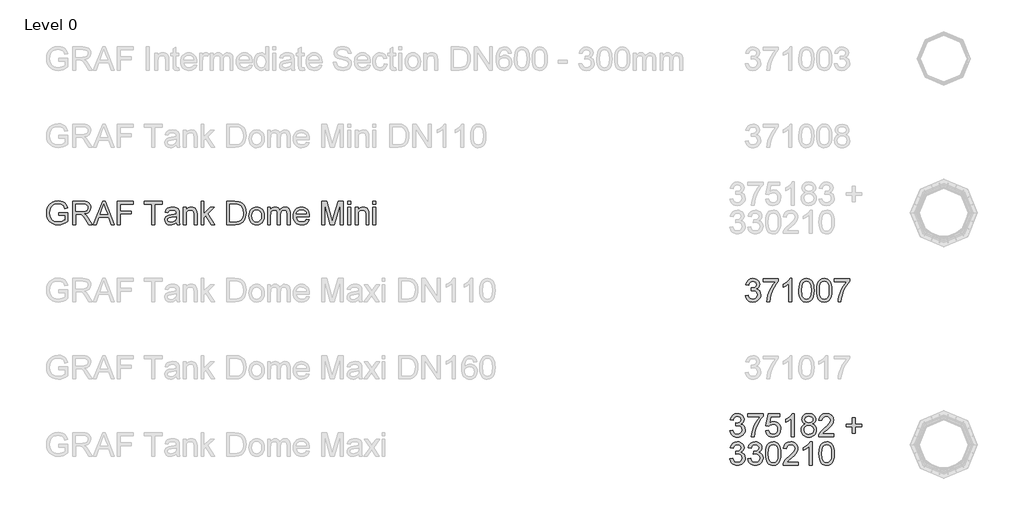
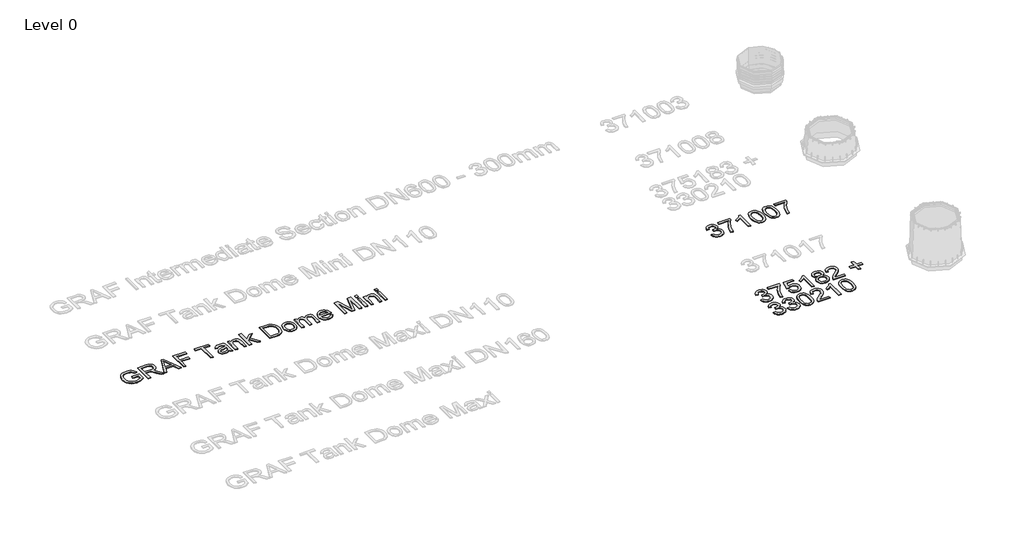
# One storey, part 4 of 19: 3 proxies.
"""IFC4 building model written with IfcOpenShell, lengths in millimetres."""

import ifcopenshell
import ifcopenshell.guid

model = None  # the IFC model being written
_history = None  # IfcOwnerHistory: only IFC2X3 demands one
_inside = {}  # id of a spatial element -> (the spatial element, [elements in it])
_under = {}  # id of a project, library or spatial element -> (it, [spatial elements below it])
_declared = {}  # id of a project -> (the project, [libraries it declares])
_typed = {}  # id of a type object -> (the type object, [elements of that type])
_made_of = {}  # id of a material, layer set ... -> (it, [elements and type objects made of it])


def new_model(schema):
    """Start an empty IFC model of exactly this schema.

    Asked for "IFC4X3", IfcOpenShell would pick the latest addendum, in which some entities
    have other attributes; the version numbers below select the first issue.
    IFC2X3 requires an IfcOwnerHistory on every rooted entity: one is made here for all.
    """
    global model, _history
    if schema == "IFC4X3":
        model = ifcopenshell.file(schema_version=(4, 3, 0, 0))
    else:
        model = ifcopenshell.file(schema=schema)
    _inside.clear()
    _under.clear()
    _declared.clear()
    _typed.clear()
    _made_of.clear()
    _history = None
    if model.schema == "IFC2X3":
        org = make("IfcOrganization", Name="unknown")
        user = make(
            "IfcPersonAndOrganization",
            ThePerson=make("IfcPerson", FamilyName="unknown"),
            TheOrganization=org,
        )
        app = make(
            "IfcApplication",
            ApplicationDeveloper=org,
            Version="unknown",
            ApplicationFullName="unknown",
            ApplicationIdentifier="unknown",
        )
        _history = make(
            "IfcOwnerHistory",
            OwningUser=user,
            OwningApplication=app,
            ChangeAction="ADDED",
            CreationDate=0,
        )
    return model


def make(cls, **values):
    """One entity of the class cls with the attributes given. An attribute that is None is left unset."""
    return model.create_entity(
        cls, **{name: value for name, value in values.items() if value is not None}
    )


def rooted(cls, **values):
    """An entity with a GlobalId (a new one), such as an element, a storey or a relation."""
    return make(cls, GlobalId=ifcopenshell.guid.new(), OwnerHistory=_history, **values)


def si_unit(unit_type, name, prefix=None):
    """IfcSIUnit, for example si_unit("LENGTHUNIT", "METRE", prefix="MILLI")."""
    return make("IfcSIUnit", UnitType=unit_type, Prefix=prefix, Name=name)


def assignment(units):
    """IfcUnitAssignment: the units of a project."""
    return None if units is None else make("IfcUnitAssignment", Units=units)


def point(xyz):
    """IfcCartesianPoint."""
    return None if xyz is None else make("IfcCartesianPoint", Coordinates=xyz)


def direction(xyz):
    """IfcDirection."""
    return None if xyz is None else make("IfcDirection", DirectionRatios=xyz)


def frame(location, z_axis=None, x_axis=None):
    """IfcAxis2Placement3D, a coordinate frame: its origin and axes. An axis left out is left unset."""
    return make(
        "IfcAxis2Placement3D",
        Location=point(location),
        Axis=direction(z_axis),
        RefDirection=direction(x_axis),
    )


def origin():
    """The frame at (0, 0, 0) with its axes left unset."""
    return frame((0.0, 0.0, 0.0))


def origin_with_axes():
    """The frame at (0, 0, 0) with the z axis (0, 0, 1) and the x axis (1, 0, 0) written out."""
    return frame((0.0, 0.0, 0.0), z_axis=(0.0, 0.0, 1.0), x_axis=(1.0, 0.0, 0.0))


def place(relative_to, where):
    """IfcLocalPlacement: puts the frame where relative to a parent placement (None: the world)."""
    return make(
        "IfcLocalPlacement", PlacementRelTo=relative_to, RelativePlacement=where
    )


def context(
    kind, dimensions, precision=None, world=None, true_north=None, identifier=None
):
    """IfcGeometricRepresentationContext, for example the 3D "Model" context."""
    return make(
        "IfcGeometricRepresentationContext",
        ContextIdentifier=identifier,
        ContextType=kind,
        CoordinateSpaceDimension=dimensions,
        Precision=precision,
        WorldCoordinateSystem=world,
        TrueNorth=true_north,
    )


def project(units=None, contexts=None):
    """IfcProject with its units and contexts."""
    return rooted(
        "IfcProject",
        Name="project",
        RepresentationContexts=contexts,
        UnitsInContext=assignment(units),
    )


def spatial(cls, under=None, at=None, **own):
    """A site, building, storey or space (cls), placed at a placement, below another one or the project."""
    s = rooted(cls, ObjectPlacement=at, **own)
    if under is not None:
        _under.setdefault(under.id(), (under, []))[1].append(s)
    return s


def polyline(points):
    """IfcPolyline through the points."""
    return make("IfcPolyline", Points=[point(p) for p in points])


def outline(outer, holes=None, kind="AREA"):
    """IfcArbitraryClosedProfileDef: a profile drawn as a closed curve; with holes, ...WithVoids."""
    if holes is None:
        return make("IfcArbitraryClosedProfileDef", ProfileType=kind, OuterCurve=outer)
    return make(
        "IfcArbitraryProfileDefWithVoids",
        ProfileType=kind,
        OuterCurve=outer,
        InnerCurves=holes,
    )


def extrude(swept, where, along, depth):
    """IfcExtrudedAreaSolid: the profile swept, set in the frame where, extruded along a direction by depth."""
    return make(
        "IfcExtrudedAreaSolid",
        SweptArea=swept,
        Position=where,
        ExtrudedDirection=direction(along),
        Depth=depth,
    )


def shape(context_of_items, identifier, shape_type, items):
    """IfcShapeRepresentation: the items that make up one representation, for example the "Body"."""
    return make(
        "IfcShapeRepresentation",
        ContextOfItems=context_of_items,
        RepresentationIdentifier=identifier,
        RepresentationType=shape_type,
        Items=items,
    )


def made_of(thing, what):
    """Note that an element or type object is made of a material, layer set ...; save() writes the relation."""
    if what is not None:
        _made_of.setdefault(what.id(), (what, []))[1].append(thing)
    return thing


def element(
    cls,
    number,
    at=None,
    inside=None,
    cuts=None,
    type_object=None,
    material=None,
    context=None,
    identifier="Body",
    shape_type=None,
    held_by="IfcProductDefinitionShape",
    body=None,
    shapes=None,
    **own,
):
    """One element of the class cls, such as IfcWall. Its Tag is "e" and its number.

    at: its placement. inside: the storey or other place that contains it. cuts: it is an
    opening in that element (IfcRelVoidsElement). A single representation is given by context,
    identifier, shape_type and body (its items); several are given by shapes. held_by: the class
    of the entity that holds the representations. save() writes the other relations.
    """
    e = rooted(cls, Tag="e%d" % number, ObjectPlacement=at, **own)
    if body is not None:
        shapes = [shape(context, identifier, shape_type, body)]
    if shapes is not None:
        e.Representation = make(held_by, Representations=shapes)
    if inside is not None:
        _inside.setdefault(inside.id(), (inside, []))[1].append(e)
    if cuts is not None:
        rooted(
            "IfcRelVoidsElement", RelatingBuildingElement=cuts, RelatedOpeningElement=e
        )
    if type_object is not None:
        _typed.setdefault(type_object.id(), (type_object, []))[1].append(e)
    return made_of(e, material)


def aggregate(whole, parts):
    """IfcRelAggregates: a whole, such as a stair, and the parts it consists of."""
    return rooted("IfcRelAggregates", RelatingObject=whole, RelatedObjects=parts)


def save(model, path):
    """Write the relations noted so far, then the file.

    IfcRelAggregates (storeys below a building ...), IfcRelContainedInSpatialStructure (elements
    in a storey), IfcRelDefinesByType, IfcRelAssociatesMaterial and IfcRelDeclares: one each for
    every whole, place, type object, material and project.
    """
    for whole, parts in _under.values():
        aggregate(whole, parts)
    for where, things in _inside.values():
        rooted(
            "IfcRelContainedInSpatialStructure",
            RelatedElements=things,
            RelatingStructure=where,
        )
    for kind, things in _typed.values():
        rooted("IfcRelDefinesByType", RelatedObjects=things, RelatingType=kind)
    for what, things in _made_of.values():
        rooted("IfcRelAssociatesMaterial", RelatedObjects=things, RelatingMaterial=what)
    for by, libraries in _declared.values():
        rooted("IfcRelDeclares", RelatingContext=by, RelatedDefinitions=libraries)
    model.write(path)


model = new_model("IFC4")

# Units and contexts
model_context = context("Model", 3, world=origin())
ifc_project = project(units=[si_unit("LENGTHUNIT", "METRE", prefix="MILLI")], contexts=[model_context])

# Site, building, storey
site = spatial("IfcSite", under=ifc_project)
building = spatial("IfcBuilding", under=site)
storey = spatial("IfcBuildingStorey", under=building, Name="Level 0", Elevation=0.0)

# Proxies
placement = place(None, origin())
element("IfcBuildingElementProxy", 1, Name="300mm Arial", ObjectType="300mm Arial", at=placement, inside=storey, context=model_context, shape_type="SweptSolid", body=[
    extrude(outline(polyline([(-15240.9940387, -15082.9794047), (-15240.9940387, -15045.3082884), (-15118.5629107, -15045.3082884), (-15118.5629107, -15157.9537553), (-15148.3153671, -15178.6471176), (-15179.0059225, -15193.4911561), (-15210.5610007, -15202.4306885), (-15242.9070251, -15205.4105327), (-15285.1674693, -15200.674052), (-15323.3628175, -15186.46461), (-15355.0926395, -15163.2788472), (-15377.9565055, -15131.6134045), (-15391.7796715, -15093.6295885), (-15396.3873935, -15051.4887059), (-15391.7980656, -15009.0443207), (-15378.0300819, -14969.5613856), (-15355.6536596, -14936.442809), (-15325.2390156, -14913.0914993), (-15288.1932987, -14899.2407422), (-15245.9236575, -14894.6238232), (-15214.8928112, -14897.3001647), (-15186.9889618, -14905.3291892), (-15163.4904994, -14918.1314827), (-15145.6758138, -14935.1276309), (-15132.4964413, -14957.1361712), (-15122.9039183, -14984.9756412), (-15157.6319786, -14994.7613023), (-15165.3850917, -14974.9048716), (-15174.8120678, -14959.9228773), (-15187.2832674, -14948.6289001), (-15204.169051, -14939.8365204), (-15224.3013932, -14934.1803347), (-15246.5122687, -14932.2949395), (-15272.5123287, -14934.3274875), (-15294.7415982, -14940.4251316), (-15313.1173039, -14949.8245166), (-15327.5566722, -14961.7622873), (-15346.9440533, -14990.7881767), (-15355.7732212, -15019.225455), (-15358.7162772, -15049.9436015), (-15355.175413, -15085.9684459), (-15344.5528204, -15115.6105377), (-15327.1703961, -15138.6583447), (-15303.3500369, -15154.9003348), (-15275.4737787, -15164.529646), (-15245.9236575, -15167.7394164), (-15219.831627, -15165.3205923), (-15194.3833899, -15158.0641199), (-15172.2828791, -15148.0669267), (-15156.234027, -15137.42594), (-15156.234027, -15082.9794047), (-15240.9940387, -15082.9794047)])), origin_with_axes(), (0.0, 0.0, 1.0), 10.0),
    extrude(outline(polyline([(-15057.3473467, -15200.7016432), (-15057.3473467, -14899.3327127), (-14927.4850024, -14899.3327127), (-14892.5821982, -14901.3652607), (-14867.1891434, -14907.4629048), (-14848.6294968, -14918.7200939), (-14834.2269167, -14936.2312768), (-14824.9838815, -14957.9455116), (-14821.9028698, -14981.811856), (-14827.0072325, -15011.4999331), (-14842.3203206, -15036.1112385), (-14853.9200997, -15046.1406214), (-14868.3019865, -15054.1558504), (-14905.4120827, -15064.1438466), (-14884.0013506, -15080.257078), (-14853.467145, -15119.0318402), (-14803.2144645, -15200.7016432), (-14846.9924219, -15200.7016432), (-14886.2086426, -15138.2352804), (-14914.5355562, -15096.8853441), (-14934.4379722, -15077.3508102), (-14952.3538253, -15070.1771113), (-14974.2060158, -15068.8527361), (-15019.6762304, -15068.8527361), (-15019.6762304, -15200.7016432), (-15057.3473467, -15200.7016432)]), holes=[polyline([(-15019.6762304, -15031.1816198), (-14935.3576771, -15031.1816198), (-14911.1418448, -15029.8480476), (-14892.3522719, -15025.8473309), (-14878.2072092, -15018.9127553), (-14867.9249074, -15008.7776063), (-14861.6617165, -14996.5179388), (-14859.5739861, -14983.2098076), (-14863.5563087, -14964.834102), (-14875.5032765, -14950.0268517), (-14896.058683, -14940.2595847), (-14925.8663217, -14937.003829), (-15019.6762304, -14937.003829), (-15019.6762304, -15031.1816198)])]), origin_with_axes(), (0.0, 0.0, 1.0), 10.0),
    extrude(outline(polyline([(-14791.0743586, -15200.7016432), (-14670.7769462, -14899.3327127), (-14638.6976362, -14899.3327127), (-14518.4002238, -15200.7016432), (-14558.2050557, -15200.7016432), (-14592.7123868, -15106.5238524), (-14716.835772, -15106.5238524), (-14751.2695268, -15200.7016432), (-14791.0743586, -15200.7016432)]), holes=[polyline([(-14703.003409, -15068.8527361), (-14606.4711735, -15068.8527361), (-14633.6208647, -14994.7613023), (-14654.7372912, -14937.003829), (-14673.499273, -14988.2865792), (-14703.003409, -15068.8527361)])]), origin_with_axes(), (0.0, 0.0, 1.0), 10.0),
    extrude(outline(polyline([(-14478.1539335, -15200.7016432), (-14478.1539335, -14899.3327127), (-14275.6716834, -14899.3327127), (-14275.6716834, -14937.003829), (-14440.4828172, -14937.003829), (-14440.4828172, -15026.4727303), (-14299.2161311, -15026.4727303), (-14299.2161311, -15064.1438466), (-14440.4828172, -15064.1438466), (-14440.4828172, -15200.7016432), (-14478.1539335, -15200.7016432)])), origin_with_axes(), (0.0, 0.0, 1.0), 10.0),
    extrude(outline(polyline([(-14030.8094274, -15200.7016432), (-14030.8094274, -14937.003829), (-14129.6961077, -14937.003829), (-14129.6961077, -14899.3327127), (-13894.2516308, -14899.3327127), (-13894.2516308, -14937.003829), (-13993.1383111, -14937.003829), (-13993.1383111, -15200.7016432), (-14030.8094274, -15200.7016432)])), origin_with_axes(), (0.0, 0.0, 1.0), 10.0),
    extrude(outline(polyline([(-13715.3138283, -15172.4483059), (-13733.312455, -15187.8809556), (-13751.8445105, -15197.9793164), (-13771.3330592, -15203.5527286), (-13792.2011653, -15205.4105327), (-13823.6826671, -15200.9407665), (-13846.905218, -15187.5314677), (-13861.2250247, -15167.1691993), (-13865.9982936, -15141.8405239), (-13864.1956718, -15126.2239332), (-13858.7878065, -15112.0420823), (-13850.4460822, -15099.9019765), (-13839.8418837, -15090.410621), (-13813.4647447, -15078.049786), (-13780.8703999, -15072.3844033), (-13742.353155, -15066.4247149), (-13715.5345575, -15059.434957), (-13715.3138283, -15051.0472475), (-13717.9073964, -15034.2350404), (-13725.6881006, -15023.2353687), (-13743.088919, -15015.0683884), (-13767.3323425, -15012.3460616), (-13789.7731442, -15014.1578805), (-13805.4449172, -15019.5933369), (-13816.1318891, -15029.6457125), (-13823.6182877, -15045.3082884), (-13861.289404, -15040.5993989), (-13854.7503016, -15019.9980071), (-13844.9922316, -15003.8111994), (-13831.1046863, -14991.4319702), (-13812.1771577, -14982.2533144), (-13789.0281831, -14976.5695376), (-13762.4763001, -14974.6749453), (-13737.009669, -14976.3488084), (-13716.8221445, -14981.3703976), (-13701.601027, -14988.9211756), (-13691.0336167, -14998.1826048), (-13684.0254646, -15009.6329319), (-13679.482122, -15023.7504035), (-13677.642712, -15056.7126303), (-13677.642712, -15103.5807964), (-13675.7297257, -15169.0270034), (-13668.224933, -15200.7016432), (-13705.8960493, -15200.7016432), (-13715.3138283, -15172.4483059)]), holes=[polyline([(-13715.3138283, -15097.1060733), (-13776.0879339, -15108.657568), (-13808.4983377, -15114.7644091), (-13823.1768293, -15124.697223), (-13828.3271773, -15139.1917736), (-13825.522077, -15150.3937803), (-13817.1067764, -15159.5724361), (-13803.2652163, -15165.6976713), (-13784.1813378, -15167.7394164), (-13763.9478281, -15165.4861392), (-13746.0687631, -15158.7263075), (-13731.5742125, -15148.7659025), (-13721.4942459, -15136.9109052), (-13717.0244796, -15124.697223), (-13715.5345575, -15107.7746512), (-13715.3138283, -15097.1060733)])]), origin_with_axes(), (0.0, 0.0, 1.0), 10.0),
    extrude(outline(polyline([(-13625.8449271, -15200.7016432), (-13625.8449271, -14979.3838349), (-13588.1738108, -14979.3838349), (-13588.1738108, -15010.2859225), (-13575.0864088, -14994.70612), (-13559.3686506, -14983.5776896), (-13541.0205361, -14976.9006314), (-13520.0420653, -14974.6749453), (-13501.4732216, -14976.4683701), (-13484.4678764, -14981.8486442), (-13470.2860255, -14990.1443832), (-13460.1876647, -15000.6842024), (-13448.8936874, -15028.3857166), (-13446.9071247, -15064.8060342), (-13446.9071247, -15200.7016432), (-13484.578241, -15200.7016432), (-13484.578241, -15069.8828057), (-13488.9192485, -15036.5526969), (-13494.9249221, -15026.6290801), (-13504.2599277, -15018.9311494), (-13516.2252896, -15013.9923336), (-13530.122032, -15012.3460616), (-13552.1857546, -15016.0432757), (-13570.9937216, -15027.1349178), (-13578.5100106, -15036.1894135), (-13583.8787885, -15048.5640441), (-13588.1738108, -15083.2737103), (-13588.1738108, -15200.7016432), (-13625.8449271, -15200.7016432)])), origin_with_axes(), (0.0, 0.0, 1.0), 10.0),
    extrude(outline(polyline([(-13395.1093397, -15200.7016432), (-13395.1093397, -14899.3327127), (-13357.4382234, -14899.3327127), (-13357.4382234, -15061.274367), (-13272.9725173, -14979.3838349), (-13220.8804268, -14979.3838349), (-13306.3762025, -15062.3044366), (-13216.1715373, -15200.7016432), (-13260.1702239, -15200.7016432), (-13333.3787409, -15088.4976346), (-13357.4382234, -15111.8213531), (-13357.4382234, -15200.7016432), (-13395.1093397, -15200.7016432)])), origin_with_axes(), (0.0, 0.0, 1.0), 10.0),
    extrude(outline(polyline([(-13060.7781825, -15200.7016432), (-13060.7781825, -14899.3327127), (-12956.8147307, -14899.3327127), (-12903.030383, -14903.6737203), (-12879.0076887, -14912.0430357), (-12858.7373908, -14925.2316052), (-12837.8968757, -14948.1874417), (-12823.0528372, -14976.7350845), (-12814.1684871, -15010.3227107), (-12811.207037, -15048.3984972), (-12813.2119939, -15080.7445216), (-12819.2268645, -15109.209391), (-12828.3871262, -15133.4436174), (-12839.8282562, -15153.097713), (-12852.9984316, -15168.6131361), (-12867.3458295, -15180.4313452), (-12883.8177458, -15189.1961338), (-12903.3614768, -15195.5512952), (-12951.8115355, -15200.7016432), (-13060.7781825, -15200.7016432)]), holes=[polyline([(-13023.1070662, -15163.0305269), (-12956.4468487, -15163.0305269), (-12928.8740931, -15161.6693635), (-12907.9600017, -15157.5858733), (-12892.1778641, -15151.0191797), (-12880.0009701, -15142.2084059), (-12866.9135681, -15125.9020365), (-12857.0819218, -15104.794807), (-12850.9290954, -15078.794747), (-12848.8781533, -15047.809886), (-12852.8972641, -15006.7542553), (-12864.9545965, -14976.4407789), (-12882.7692821, -14955.618658), (-12904.0604526, -14943.0370938), (-12925.7287021, -14938.5121452), (-12957.4769183, -14937.003829), (-13023.1070662, -14937.003829), (-13023.1070662, -15163.0305269)])]), origin_with_axes(), (0.0, 0.0, 1.0), 10.0),
    extrude(outline(polyline([(-12773.5359207, -15090.042739), (-12771.4987741, -15061.3801331), (-12765.3873345, -15036.6814556), (-12755.2016018, -15015.9467067), (-12740.9415759, -14999.1758862), (-12726.5849811, -14988.4567246), (-12710.7384641, -14980.8001806), (-12693.4020251, -14976.2062541), (-12674.575664, -14974.6749453), (-12653.7926305, -14976.5396472), (-12635.0007584, -14982.1337528), (-12618.2000475, -14991.4572621), (-12603.3904979, -15004.5101751), (-12591.3032751, -15020.8510335), (-12582.6695445, -15040.0383788), (-12577.4893062, -15062.0722111), (-12575.7625601, -15086.9525303), (-12578.8159806, -15125.0099227), (-12587.9762423, -15153.9806298), (-12602.9766307, -15175.6764705), (-12623.5504313, -15191.9092635), (-12647.9869928, -15202.0352154), (-12674.575664, -15205.4105327), (-12695.6622001, -15203.5527286), (-12714.6288162, -15197.9793164), (-12731.4755123, -15188.690296), (-12746.2022884, -15175.6856675), (-12758.1607526, -15159.18616), (-12766.7025126, -15139.4125028), (-12771.8275687, -15116.3646958), (-12773.5359207, -15090.042739)]), holes=[polyline([(-12735.8648044, -15089.9691626), (-12731.5054027, -15124.0626265), (-12718.4271978, -15148.3520353), (-12698.7455111, -15162.8925711), (-12674.575664, -15167.7394164), (-12650.5161815, -15162.86498), (-12630.871283, -15148.2416707), (-12617.793078, -15123.6303652), (-12613.4336764, -15088.7919402), (-12617.8206692, -15055.6917577), (-12630.9816476, -15031.7334428), (-12650.6541372, -15017.1929069), (-12674.575664, -15012.3460616), (-12698.7455111, -15017.1745128), (-12718.4271978, -15031.6598664), (-12731.5054027, -15055.8940928), (-12735.8648044, -15089.9691626)])]), origin_with_axes(), (0.0, 0.0, 1.0), 10.0),
    extrude(outline(polyline([(-12533.3825542, -15200.7016432), (-12533.3825542, -14979.3838349), (-12495.7114379, -14979.3838349), (-12495.7114379, -15015.8041524), (-12484.3806725, -14999.0747187), (-12469.8125455, -14985.9689226), (-12452.5036976, -14977.4984396), (-12432.9507696, -14974.6749453), (-12411.9998899, -14977.5536219), (-12395.2060768, -14986.1896518), (-12382.6613008, -15000.0128178), (-12374.4575323, -15018.4529028), (-12360.7263368, -14999.3000464), (-12345.0637609, -14985.6194347), (-12327.4698045, -14977.4110677), (-12307.9444676, -14974.6749453), (-12279.626751, -14979.227485), (-12258.6850684, -14992.8851041), (-12245.7448193, -15016.0156845), (-12241.4314029, -15048.9871084), (-12241.4314029, -15200.7016432), (-12279.1025192, -15200.7016432), (-12279.1025192, -15065.1739161), (-12282.5973981, -15033.7200056), (-12287.5086228, -15025.0471875), (-12295.2525388, -15018.2321736), (-12305.2129438, -15013.8175896), (-12316.7736355, -15012.3460616), (-12337.1818892, -15016.1168521), (-12353.8193524, -15027.4292234), (-12364.8834034, -15047.0557279), (-12368.5714204, -15075.7689176), (-12368.5714204, -15200.7016432), (-12406.2425367, -15200.7016432), (-12406.2425367, -15060.9800614), (-12408.4222375, -15039.6796939), (-12414.96134, -15024.4861675), (-12426.4668494, -15015.3810881), (-12443.545771, -15012.3460616), (-12458.0587157, -15014.3694126), (-12471.4312262, -15020.4394655), (-12482.4676861, -15030.4090676), (-12489.9724788, -15044.131066), (-12494.2766981, -15063.1689593), (-12495.7114379, -15089.0862458), (-12495.7114379, -15200.7016432), (-12533.3825542, -15200.7016432)])), origin_with_axes(), (0.0, 0.0, 1.0), 10.0),
    extrude(outline(polyline([(-12029.972832, -15134.7771896), (-11993.0374797, -15139.4860792), (-12006.3456109, -15167.3163521), (-12027.5815991, -15188.1200789), (-12056.2671976, -15201.0879193), (-12091.92416, -15205.4105327), (-12115.2984623, -15203.5458308), (-12136.1251817, -15197.9517253), (-12154.4043184, -15188.6282159), (-12170.1358722, -15175.5753029), (-12182.7864143, -15159.1562696), (-12191.8225158, -15139.7343995), (-12197.2441767, -15117.3096927), (-12199.051397, -15091.882149), (-12197.2257826, -15065.5923819), (-12191.7489394, -15042.4204147), (-12182.6208674, -15022.3662475), (-12169.8415666, -15005.4298801), (-12154.1513995, -14991.9745962), (-12136.2907286, -14982.363679), (-12116.259554, -14976.5971288), (-12094.0578756, -14974.6749453), (-12072.5712678, -14976.5925302), (-12053.1402007, -14982.3452849), (-12035.7646742, -14991.9332094), (-12020.4446884, -15005.3563037), (-12007.9389998, -15022.2558829), (-11999.0063651, -15042.2732619), (-11993.6467843, -15065.4084409), (-11991.8602573, -15091.6614198), (-11992.0809865, -15101.8149629), (-12161.3802807, -15101.8149629), (-12154.8595723, -15130.0131178), (-12139.7120312, -15150.7432682), (-12117.8506436, -15163.4903794), (-12091.188396, -15167.7394164), (-12071.1388273, -15165.7712477), (-12054.2530437, -15159.8667417), (-12040.5310453, -15149.6580163), (-12029.972832, -15134.7771896)]), holes=[polyline([(-12161.3802807, -15064.1438466), (-12029.5313736, -15064.1438466), (-12034.6265393, -15044.2414306), (-12044.6145354, -15030.0043974), (-12066.5770906, -15016.7606456), (-12094.2050284, -15012.3460616), (-12119.5980831, -15015.8685317), (-12140.594948, -15026.4359421), (-12155.1906661, -15042.9078584), (-12161.3802807, -15064.1438466)])]), origin_with_axes(), (0.0, 0.0, 1.0), 10.0),
    extrude(outline(polyline([(-11831.758013, -15200.7016432), (-11831.758013, -14899.3327127), (-11766.9372055, -14899.3327127), (-11705.2801831, -15111.7477767), (-11692.8457717, -15156.1143454), (-11679.3812906, -15108.0689568), (-11618.7543378, -14899.3327127), (-11553.9335303, -14899.3327127), (-11553.9335303, -15200.7016432), (-11591.6046466, -15200.7016432), (-11591.6046466, -14937.003829), (-11667.3147612, -15200.7016432), (-11718.3767821, -15200.7016432), (-11794.0868967, -14937.003829), (-11794.0868967, -15200.7016432), (-11831.758013, -15200.7016432)])), origin_with_axes(), (0.0, 0.0, 1.0), 10.0),
    extrude(outline(polyline([(-11492.7179663, -14937.003829), (-11492.7179663, -14899.3327127), (-11455.04685, -14899.3327127), (-11455.04685, -14937.003829), (-11492.7179663, -14937.003829)])), origin_with_axes(), (0.0, 0.0, 1.0), 10.0),
    extrude(outline(polyline([(-11492.7179663, -15200.7016432), (-11492.7179663, -14979.3838349), (-11455.04685, -14979.3838349), (-11455.04685, -15200.7016432), (-11492.7179663, -15200.7016432)])), origin_with_axes(), (0.0, 0.0, 1.0), 10.0),
    extrude(outline(polyline([(-11398.5401755, -15200.7016432), (-11398.5401755, -14979.3838349), (-11360.8690592, -14979.3838349), (-11360.8690592, -15010.2859225), (-11347.7816572, -14994.70612), (-11332.063899, -14983.5776896), (-11313.7157845, -14976.9006314), (-11292.7373137, -14974.6749453), (-11274.16847, -14976.4683701), (-11257.1631248, -14981.8486442), (-11242.9812739, -14990.1443832), (-11232.8829131, -15000.6842024), (-11221.5889358, -15028.3857166), (-11219.6023731, -15064.8060342), (-11219.6023731, -15200.7016432), (-11257.2734894, -15200.7016432), (-11257.2734894, -15069.8828057), (-11261.6144969, -15036.5526969), (-11267.6201705, -15026.6290801), (-11276.9551761, -15018.9311494), (-11288.920538, -15013.9923336), (-11302.8172804, -15012.3460616), (-11324.881003, -15016.0432757), (-11343.68897, -15027.1349178), (-11351.205259, -15036.1894135), (-11356.5740369, -15048.5640441), (-11360.8690592, -15083.2737103), (-11360.8690592, -15200.7016432), (-11398.5401755, -15200.7016432)])), origin_with_axes(), (0.0, 0.0, 1.0), 10.0),
    extrude(outline(polyline([(-11167.8045881, -14937.003829), (-11167.8045881, -14899.3327127), (-11130.1334718, -14899.3327127), (-11130.1334718, -14937.003829), (-11167.8045881, -14937.003829)])), origin_with_axes(), (0.0, 0.0, 1.0), 10.0),
    extrude(outline(polyline([(-11167.8045881, -15200.7016432), (-11167.8045881, -14979.3838349), (-11130.1334718, -14979.3838349), (-11130.1334718, -15200.7016432), (-11167.8045881, -15200.7016432)])), origin_with_axes(), (0.0, 0.0, 1.0), 10.0),
])
element("IfcBuildingElementProxy", 2, Name="300mm Arial", ObjectType="300mm Arial", at=placement, inside=storey, context=model_context, shape_type="SweptSolid", body=[
    extrude(outline(polyline([(-6342.0538732, -16120.650521), (-6304.3827568, -16115.9416315), (-6295.9490621, -16139.6148379), (-6283.5974241, -16155.5993106), (-6266.7208376, -16164.7043899), (-6244.7122972, -16167.7394164), (-6218.8869812, -16163.5639558), (-6198.947777, -16151.0375738), (-6186.2006659, -16132.3491685), (-6181.9516289, -16109.6876376), (-6186.1638777, -16088.1757379), (-6198.8006242, -16070.7289343), (-6217.930488, -16059.1682426), (-6241.6220885, -16055.3146787), (-6268.0360157, -16059.434957), (-6263.842161, -16021.7638407), (-6257.8088963, -16022.2052991), (-6235.2393359, -16019.5013664), (-6215.0610084, -16011.3895685), (-6200.8239752, -15997.66757), (-6196.0782975, -15978.1330361), (-6199.5179941, -15961.8634549), (-6209.8370841, -15948.6656883), (-6225.5824335, -15939.9192938), (-6245.3009084, -15937.003829), (-6265.0561716, -15939.946885), (-6281.2061912, -15948.7760529), (-6292.9968091, -15963.4913327), (-6299.6738673, -15984.0927244), (-6337.3449836, -15979.3838349), (-6326.2533415, -15945.5570854), (-6306.5164724, -15920.3019864), (-6279.513934, -15904.5750312), (-6246.6252836, -15899.3327127), (-6222.9428802, -15901.9170837), (-6201.1918572, -15909.6701968), (-6182.8529397, -15921.9022731), (-6169.4068528, -15937.923534), (-6161.1570991, -15956.3820131), (-6158.4071812, -15975.9257441), (-6161.0191433, -15994.1359029), (-6168.8550298, -16010.6538045), (-6181.8044761, -16024.7252908), (-6199.7571174, -16035.5962037), (-6176.1758815, -16045.1243474), (-6158.7014868, -16061.3479434), (-6147.8857561, -16083.3840749), (-6144.2805125, -16110.3498252), (-6146.0831343, -16129.4612948), (-6151.4909997, -16147.0644483), (-6160.5041085, -16163.1592856), (-6173.122461, -16177.7458067), (-6188.4953298, -16189.8491243), (-6205.771988, -16198.4943512), (-6224.9524356, -16203.6814873), (-6246.0366724, -16205.4105327), (-6265.0929598, -16203.9344062), (-6282.4569899, -16199.5060267), (-6298.1287629, -16192.1253942), (-6312.1082787, -16181.7925086), (-6323.8299188, -16169.1143754), (-6332.7280646, -16154.6979997), (-6338.802716, -16138.5433816), (-6342.0538732, -16120.650521)])), origin_with_axes(), (0.0, 0.0, 1.0), 10.0),
    extrude(outline(polyline([(-6111.3182858, -15941.7127186), (-6111.3182858, -15904.0416023), (-5913.5449252, -15904.0416023), (-5913.5449252, -15934.5022315), (-5941.7338831, -15970.1775879), (-5969.6469294, -16015.546635), (-5994.267432, -16066.4707002), (-6012.5787583, -16118.811111), (-6021.555079, -16157.9721494), (-6026.5582741, -16200.7016432), (-6064.2293904, -16200.7016432), (-6060.1550973, -16161.8716986), (-6049.2565932, -16115.7209023), (-6031.8281837, -16066.801794), (-6008.1641743, -16019.6669133), (-5980.5362365, -15977.0569813), (-5951.2160415, -15941.7127186), (-6111.3182858, -15941.7127186)])), origin_with_axes(), (0.0, 0.0, 1.0), 10.0),
    extrude(outline(polyline([(-5739.3160123, -16200.7016432), (-5776.9871286, -16200.7016432), (-5776.9871286, -15965.8457775), (-5812.6716821, -15991.2664233), (-5852.3293612, -16010.2859225), (-5852.3293612, -15974.6749453), (-5822.7424517, -15958.580108), (-5797.1102737, -15939.4318502), (-5776.9043551, -15919.0695818), (-5763.5962239, -15899.3327127), (-5739.3160123, -15899.3327127), (-5739.3160123, -16200.7016432)])), origin_with_axes(), (0.0, 0.0, 1.0), 10.0),
    extrude(outline(polyline([(-5649.847111, -16052.4451991), (-5647.078799, -16004.2066725), (-5638.773863, -15965.7354129), (-5625.0150764, -15936.442809), (-5605.8852126, -15915.7402497), (-5581.246316, -15903.434597), (-5550.9604307, -15899.3327127), (-5527.7470768, -15901.7607339), (-5506.9617441, -15909.0447974), (-5489.5793198, -15920.8997947), (-5476.5746913, -15937.0406172), (-5466.752242, -15957.3293093), (-5458.9163555, -15981.627915), (-5453.7844017, -16012.4840174), (-5452.0737504, -16052.4451991), (-5454.8144713, -16100.4078142), (-5463.0366339, -16138.7871034), (-5476.7126471, -16168.1072984), (-5495.8149197, -16188.8926311), (-5520.5089986, -16201.2810573), (-5550.9604307, -16205.4105327), (-5571.7089753, -16203.617108), (-5590.103075, -16198.2368338), (-5606.14273, -16189.2697102), (-5619.8279402, -16176.7157371), (-5632.9613275, -16154.0220165), (-5642.3423183, -16125.7456867), (-5647.9709129, -16091.8867475), (-5649.847111, -16052.4451991)]), holes=[polyline([(-5612.1759947, -16052.3716227), (-5607.7614108, -16111.6282151), (-5602.2431809, -16131.8962138), (-5594.517659, -16145.9240141), (-5574.799184, -16162.2855658), (-5550.9604307, -16167.7394164), (-5527.1216774, -16162.2671717), (-5507.4032025, -16145.8504377), (-5499.6776806, -16131.7996447), (-5494.1594507, -16111.5362446), (-5489.7448667, -16052.3716227), (-5494.0122979, -15994.4486026), (-5499.3465868, -15974.2472825), (-5506.8145913, -15959.8860891), (-5526.496278, -15942.7243941), (-5551.4018891, -15937.003829), (-5574.983125, -15942.0438124), (-5593.9290478, -15957.1637624), (-5601.9120871, -15972.7987472), (-5607.614258, -15993.8783855), (-5612.1759947, -16052.3716227)])]), origin_with_axes(), (0.0, 0.0, 1.0), 10.0),
    extrude(outline(polyline([(-5419.1115237, -16052.4451991), (-5416.3432116, -16004.2066725), (-5408.0382756, -15965.7354129), (-5394.279489, -15936.442809), (-5375.1496252, -15915.7402497), (-5350.5107286, -15903.434597), (-5320.2248434, -15899.3327127), (-5297.0114895, -15901.7607339), (-5276.2261567, -15909.0447974), (-5258.8437325, -15920.8997947), (-5245.8391039, -15937.0406172), (-5236.0166547, -15957.3293093), (-5228.1807682, -15981.627915), (-5223.0488143, -16012.4840174), (-5221.338163, -16052.4451991), (-5224.0788839, -16100.4078142), (-5232.3010465, -16138.7871034), (-5245.9770597, -16168.1072984), (-5265.0793323, -16188.8926311), (-5289.7734112, -16201.2810573), (-5320.2248434, -16205.4105327), (-5340.9733879, -16203.617108), (-5359.3674876, -16198.2368338), (-5375.4071426, -16189.2697102), (-5389.0923528, -16176.7157371), (-5402.2257401, -16154.0220165), (-5411.606731, -16125.7456867), (-5417.2353255, -16091.8867475), (-5419.1115237, -16052.4451991)]), holes=[polyline([(-5381.4404073, -16052.3716227), (-5377.0258234, -16111.6282151), (-5371.5075935, -16131.8962138), (-5363.7820716, -16145.9240141), (-5344.0635966, -16162.2855658), (-5320.2248434, -16167.7394164), (-5296.3860901, -16162.2671717), (-5276.6676151, -16145.8504377), (-5268.9420932, -16131.7996447), (-5263.4238633, -16111.5362446), (-5259.0092794, -16052.3716227), (-5263.2767105, -15994.4486026), (-5268.6109994, -15974.2472825), (-5276.0790039, -15959.8860891), (-5295.7606907, -15942.7243941), (-5320.6663017, -15937.003829), (-5344.2475376, -15942.0438124), (-5363.1934604, -15957.1637624), (-5371.1764997, -15972.7987472), (-5376.8786706, -15993.8783855), (-5381.4404073, -16052.3716227)])]), origin_with_axes(), (0.0, 0.0, 1.0), 10.0),
    extrude(outline(polyline([(-5188.3759363, -15941.7127186), (-5188.3759363, -15904.0416023), (-4990.6025757, -15904.0416023), (-4990.6025757, -15934.5022315), (-5018.7915336, -15970.1775879), (-5046.7045799, -16015.546635), (-5071.3250825, -16066.4707002), (-5089.6364088, -16118.811111), (-5098.6127295, -16157.9721494), (-5103.6159246, -16200.7016432), (-5141.2870409, -16200.7016432), (-5137.2127478, -16161.8716986), (-5126.3142437, -16115.7209023), (-5108.8858342, -16066.801794), (-5085.2218248, -16019.6669133), (-5057.593887, -15977.0569813), (-5028.273692, -15941.7127186), (-5188.3759363, -15941.7127186)])), origin_with_axes(), (0.0, 0.0, 1.0), 10.0),
])
element("IfcBuildingElementProxy", 3, Name="300mm Arial", ObjectType="300mm Arial", at=placement, inside=storey, context=model_context, shape_type="SweptSolid", body=[
    extrude(outline(polyline([(-6542.0538732, -17870.650521), (-6504.3827568, -17865.9416315), (-6495.9490621, -17889.6148379), (-6483.5974241, -17905.5993106), (-6466.7208376, -17914.7043899), (-6444.7122972, -17917.7394164), (-6418.8869812, -17913.5639558), (-6398.947777, -17901.0375738), (-6386.2006659, -17882.3491685), (-6381.9516289, -17859.6876376), (-6386.1638777, -17838.1757379), (-6398.8006242, -17820.7289343), (-6417.930488, -17809.1682426), (-6441.6220885, -17805.3146787), (-6468.0360157, -17809.434957), (-6463.842161, -17771.7638407), (-6457.8088963, -17772.2052991), (-6435.2393359, -17769.5013664), (-6415.0610084, -17761.3895685), (-6400.8239752, -17747.66757), (-6396.0782975, -17728.1330361), (-6399.5179941, -17711.8634549), (-6409.8370841, -17698.6656883), (-6425.5824335, -17689.9192938), (-6445.3009084, -17687.003829), (-6465.0561716, -17689.946885), (-6481.2061912, -17698.7760529), (-6492.9968091, -17713.4913327), (-6499.6738673, -17734.0927244), (-6537.3449836, -17729.3838349), (-6526.2533415, -17695.5570854), (-6506.5164724, -17670.3019864), (-6479.513934, -17654.5750312), (-6446.6252836, -17649.3327127), (-6422.9428802, -17651.9170837), (-6401.1918572, -17659.6701968), (-6382.8529397, -17671.9022731), (-6369.4068528, -17687.923534), (-6361.1570991, -17706.3820131), (-6358.4071812, -17725.9257441), (-6361.0191433, -17744.1359029), (-6368.8550298, -17760.6538045), (-6381.8044761, -17774.7252908), (-6399.7571174, -17785.5962037), (-6376.1758815, -17795.1243474), (-6358.7014868, -17811.3479434), (-6347.8857561, -17833.3840749), (-6344.2805125, -17860.3498252), (-6346.0831343, -17879.4612948), (-6351.4909997, -17897.0644483), (-6360.5041085, -17913.1592856), (-6373.122461, -17927.7458067), (-6388.4953298, -17939.8491243), (-6405.771988, -17948.4943512), (-6424.9524356, -17953.6814873), (-6446.0366724, -17955.4105327), (-6465.0929598, -17953.9344062), (-6482.4569899, -17949.5060267), (-6498.1287629, -17942.1253942), (-6512.1082787, -17931.7925086), (-6523.8299188, -17919.1143754), (-6532.7280646, -17904.6979997), (-6538.802716, -17888.5433816), (-6542.0538732, -17870.650521)])), origin_with_axes(), (0.0, 0.0, 1.0), 10.0),
    extrude(outline(polyline([(-6311.3182858, -17691.7127186), (-6311.3182858, -17654.0416023), (-6113.5449252, -17654.0416023), (-6113.5449252, -17684.5022315), (-6141.7338831, -17720.1775879), (-6169.6469294, -17765.546635), (-6194.267432, -17816.4707002), (-6212.5787583, -17868.811111), (-6221.555079, -17907.9721494), (-6226.5582741, -17950.7016432), (-6264.2293904, -17950.7016432), (-6260.1550973, -17911.8716986), (-6249.2565932, -17865.7209023), (-6231.8281837, -17816.801794), (-6208.1641743, -17769.6669133), (-6180.5362365, -17727.0569813), (-6151.2160415, -17691.7127186), (-6311.3182858, -17691.7127186)])), origin_with_axes(), (0.0, 0.0, 1.0), 10.0),
    extrude(outline(polyline([(-6080.5826984, -17870.650521), (-6042.9115821, -17865.9416315), (-6035.9954006, -17888.5571771), (-6023.9288711, -17904.753182), (-6006.7671761, -17914.4928578), (-5984.5654977, -17917.7394164), (-5957.5629592, -17913.2236649), (-5937.3294495, -17899.6764104), (-5924.6927029, -17878.6611515), (-5920.4804541, -17851.7413865), (-5924.4259885, -17826.394317), (-5936.2625917, -17807.0069359), (-5956.0822342, -17794.7012831), (-5983.9768865, -17790.5993989), (-6002.2514246, -17792.2364738), (-6017.0494778, -17797.1476984), (-6038.2026926, -17814.1438466), (-6075.8738089, -17809.434957), (-6042.9115821, -17654.0416023), (-5896.9360064, -17654.0416023), (-5896.9360064, -17691.7127186), (-6012.4509529, -17691.7127186), (-6028.5641843, -17774.7068967), (-6001.6536163, -17758.3729361), (-5973.4554614, -17752.9282826), (-5955.1096462, -17754.6159412), (-5938.2583515, -17759.6789172), (-5922.9015775, -17768.1172104), (-5909.0393241, -17779.930821), (-5897.5637051, -17794.3977805), (-5889.3668344, -17810.7961204), (-5884.4487119, -17829.1258408), (-5882.8093378, -17849.3869417), (-5888.7138438, -17887.058058), (-5896.0944763, -17903.8518711), (-5906.4273619, -17919.2845208), (-5922.0807408, -17935.089651), (-5940.3460818, -17946.3790297), (-5961.2233851, -17953.152657), (-5984.7126505, -17955.4105327), (-6021.7123821, -17949.6071942), (-6037.3910529, -17942.3530211), (-6051.188927, -17932.1971788), (-6062.6691445, -17919.645505), (-6071.3948456, -17905.2038374), (-6080.5826984, -17870.650521)])), origin_with_axes(), (0.0, 0.0, 1.0), 10.0),
    extrude(outline(polyline([(-5708.5804249, -17950.7016432), (-5746.2515412, -17950.7016432), (-5746.2515412, -17715.8457775), (-5781.9360947, -17741.2664233), (-5821.5937738, -17760.2859225), (-5821.5937738, -17724.6749453), (-5792.0068643, -17708.580108), (-5766.3746863, -17689.4318502), (-5746.1687677, -17669.0695818), (-5732.8606366, -17649.3327127), (-5708.5804249, -17649.3327127), (-5708.5804249, -17950.7016432)])), origin_with_axes(), (0.0, 0.0, 1.0), 10.0),
    extrude(outline(polyline([(-5564.22353, -17784.7132869), (-5584.3926604, -17774.7804731), (-5598.5469201, -17761.3159921), (-5606.9070385, -17744.5957554), (-5609.6937446, -17724.8956745), (-5608.1762313, -17709.5320027), (-5603.6236917, -17695.4467208), (-5596.0361255, -17682.6398289), (-5585.4135329, -17671.1113268), (-5572.2663501, -17661.5831832), (-5557.1050134, -17654.7773663), (-5520.7398781, -17649.3327127), (-5484.1540137, -17654.906125), (-5468.8271301, -17661.8728902), (-5455.4776122, -17671.6263616), (-5444.6618815, -17683.3801914), (-5436.9363596, -17696.3480317), (-5432.3010465, -17710.5298826), (-5430.7559421, -17725.9257441), (-5433.50586, -17744.9912285), (-5441.7556138, -17761.4263567), (-5455.5971738, -17774.8080642), (-5475.1225107, -17784.7132869), (-5451.936748, -17796.6602547), (-5435.0601615, -17814.2542112), (-5424.7686627, -17836.6490276), (-5421.338163, -17862.9985755), (-5423.0396173, -17881.7881484), (-5428.14398, -17899.0142229), (-5436.6512511, -17914.6767988), (-5448.5614307, -17928.7758763), (-5463.2491193, -17940.4285385), (-5480.0889177, -17948.7518686), (-5499.0808257, -17953.7458667), (-5520.2248434, -17955.4105327), (-5541.368861, -17953.7389689), (-5560.360769, -17948.7242774), (-5577.2005674, -17940.3664584), (-5591.888256, -17928.6655117), (-5603.7984356, -17914.4675659), (-5612.3057067, -17898.6187497), (-5617.4100694, -17881.119063), (-5619.1115237, -17861.9685059), (-5615.5430683, -17834.5980855), (-5604.8377022, -17812.0837074), (-5587.5472485, -17795.1979238), (-5564.22353, -17784.7132869)]), holes=[polyline([(-5572.0226283, -17725.9993205), (-5568.6840992, -17742.4436457), (-5558.6685118, -17755.5770329), (-5542.2701719, -17764.1854716), (-5519.783385, -17767.0549512), (-5497.8208298, -17764.2038657), (-5481.6708103, -17755.6506093), (-5471.7379964, -17742.9586805), (-5468.4270584, -17727.6915777), (-5471.848361, -17711.8450608), (-5482.1122687, -17698.7392647), (-5498.4830174, -17689.9376879), (-5520.2248434, -17687.003829), (-5542.104625, -17689.8733086), (-5558.4477827, -17698.4817473), (-5568.6289169, -17711.1000997), (-5572.0226283, -17725.9993205)]), polyline([(-5581.4404073, -17860.6441308), (-5575.1496252, -17889.0078326), (-5566.440019, -17901.1755296), (-5552.8927645, -17910.2346237), (-5536.6691685, -17915.8632182), (-5519.9305378, -17917.7394164), (-5494.2891627, -17913.793882), (-5475.0489343, -17901.9572788), (-5463.0191931, -17884.0322286), (-5459.0092794, -17861.8213531), (-5463.1479518, -17839.2333986), (-5475.5639691, -17820.9128753), (-5495.2456559, -17808.7727694), (-5521.1813365, -17804.7260675), (-5546.4640267, -17808.7175871), (-5565.511117, -17820.6921461), (-5577.4580848, -17838.6631815), (-5581.4404073, -17860.6441308)])]), origin_with_axes(), (0.0, 0.0, 1.0), 10.0),
    extrude(outline(polyline([(-5195.3114652, -17913.0305269), (-5195.3114652, -17950.7016432), (-5393.0848258, -17950.7016432), (-5389.0381239, -17924.7291743), (-5379.7491035, -17904.4312852), (-5366.1558638, -17884.7404014), (-5346.4925711, -17864.1298127), (-5318.993392, -17841.0728086), (-5278.3424315, -17804.9651908), (-5253.9518552, -17778.3121402), (-5241.7565671, -17756.6806789), (-5237.6914711, -17735.6378288), (-5241.5266409, -17716.7746795), (-5253.0321503, -17701.0937094), (-5270.7180772, -17690.5262991), (-5293.0944995, -17687.003829), (-5316.592962, -17690.4435257), (-5334.849106, -17700.7626156), (-5346.6305269, -17717.1517585), (-5350.70482, -17738.801614), (-5388.3759363, -17734.0927244), (-5379.2432658, -17697.6540128), (-5370.6969072, -17683.1180755), (-5359.4971997, -17671.0377504), (-5345.9016607, -17661.5417964), (-5330.1678076, -17654.7589722), (-5292.2851591, -17649.3327127), (-5272.0953354, -17650.8410289), (-5254.1265992, -17655.3659774), (-5238.3789505, -17662.9075583), (-5224.8523894, -17673.4657716), (-5213.9883743, -17686.258868), (-5206.2283634, -17700.5050983), (-5201.5723569, -17716.2044624), (-5200.0203548, -17733.3569604), (-5201.6942178, -17751.3739811), (-5206.7158071, -17769.0783022), (-5215.6277484, -17787.0861258), (-5228.9726678, -17806.0136545), (-5250.2454441, -17828.610806), (-5282.9409565, -17857.6274984), (-5326.2774555, -17893.8638749), (-5343.2736037, -17913.0305269), (-5195.3114652, -17913.0305269)])), origin_with_axes(), (0.0, 0.0, 1.0), 10.0),
    extrude(outline(polyline([(-4955.1580988, -17903.6127478), (-4955.1580988, -17823.5616256), (-5035.2092209, -17823.5616256), (-5035.2092209, -17785.8905093), (-4955.1580988, -17785.8905093), (-4955.1580988, -17705.8393872), (-4917.4869825, -17705.8393872), (-4917.4869825, -17785.8905093), (-4837.4358603, -17785.8905093), (-4837.4358603, -17823.5616256), (-4917.4869825, -17823.5616256), (-4917.4869825, -17903.6127478), (-4955.1580988, -17903.6127478)])), origin_with_axes(), (0.0, 0.0, 1.0), 10.0),
    extrude(outline(polyline([(-6542.0538732, -18236.5749746), (-6504.3827568, -18231.866085), (-6495.9490621, -18255.5392914), (-6483.5974241, -18271.5237641), (-6466.7208376, -18280.6288435), (-6444.7122972, -18283.6638699), (-6418.8869812, -18279.4884093), (-6398.947777, -18266.9620274), (-6386.2006659, -18248.273622), (-6381.9516289, -18225.6120911), (-6386.1638777, -18204.1001914), (-6398.8006242, -18186.6533878), (-6417.930488, -18175.0926961), (-6441.6220885, -18171.2391322), (-6468.0360157, -18175.3594106), (-6463.842161, -18137.6882943), (-6457.8088963, -18138.1297526), (-6435.2393359, -18135.42582), (-6415.0610084, -18127.314022), (-6400.8239752, -18113.5920236), (-6396.0782975, -18094.0574896), (-6399.5179941, -18077.7879084), (-6409.8370841, -18064.5901418), (-6425.5824335, -18055.8437474), (-6445.3009084, -18052.9282826), (-6465.0561716, -18055.8713385), (-6481.2061912, -18064.7005064), (-6492.9968091, -18079.4157862), (-6499.6738673, -18100.0171779), (-6537.3449836, -18095.3082884), (-6526.2533415, -18061.481539), (-6506.5164724, -18036.22644), (-6479.513934, -18020.4994847), (-6446.6252836, -18015.2571663), (-6422.9428802, -18017.8415373), (-6401.1918572, -18025.5946503), (-6382.8529397, -18037.8267267), (-6369.4068528, -18053.8479876), (-6361.1570991, -18072.3064667), (-6358.4071812, -18091.8501977), (-6361.0191433, -18110.0603564), (-6368.8550298, -18126.578258), (-6381.8044761, -18140.6497443), (-6399.7571174, -18151.5206573), (-6376.1758815, -18161.0488009), (-6358.7014868, -18177.2723969), (-6347.8857561, -18199.3085284), (-6344.2805125, -18226.2742787), (-6346.0831343, -18245.3857483), (-6351.4909997, -18262.9889018), (-6360.5041085, -18279.0837391), (-6373.122461, -18293.6702602), (-6388.4953298, -18305.7735779), (-6405.771988, -18314.4188047), (-6424.9524356, -18319.6059409), (-6446.0366724, -18321.3349862), (-6465.0929598, -18319.8588597), (-6482.4569899, -18315.4304802), (-6498.1287629, -18308.0498477), (-6512.1082787, -18297.7169622), (-6523.8299188, -18285.0388289), (-6532.7280646, -18270.6224532), (-6538.802716, -18254.4678351), (-6542.0538732, -18236.5749746)])), origin_with_axes(), (0.0, 0.0, 1.0), 10.0),
    extrude(outline(polyline([(-6311.3182858, -18236.5749746), (-6273.6471695, -18231.866085), (-6265.2134747, -18255.5392914), (-6252.8618367, -18271.5237641), (-6235.9852502, -18280.6288435), (-6213.9767099, -18283.6638699), (-6188.1513938, -18279.4884093), (-6168.2121897, -18266.9620274), (-6155.4650785, -18248.273622), (-6151.2160415, -18225.6120911), (-6155.4282903, -18204.1001914), (-6168.0650369, -18186.6533878), (-6187.1949006, -18175.0926961), (-6210.8865011, -18171.2391322), (-6237.3004284, -18175.3594106), (-6233.1065736, -18137.6882943), (-6227.0733089, -18138.1297526), (-6204.5037485, -18135.42582), (-6184.325421, -18127.314022), (-6170.0883878, -18113.5920236), (-6165.3427101, -18094.0574896), (-6168.7824067, -18077.7879084), (-6179.1014967, -18064.5901418), (-6194.8468461, -18055.8437474), (-6214.565321, -18052.9282826), (-6234.3205842, -18055.8713385), (-6250.4706038, -18064.7005064), (-6262.2612217, -18079.4157862), (-6268.9382799, -18100.0171779), (-6306.6093962, -18095.3082884), (-6295.5177541, -18061.481539), (-6275.780885, -18036.22644), (-6248.7783466, -18020.4994847), (-6215.8896962, -18015.2571663), (-6192.2072928, -18017.8415373), (-6170.4562698, -18025.5946503), (-6152.1173524, -18037.8267267), (-6138.6712654, -18053.8479876), (-6130.4215117, -18072.3064667), (-6127.6715938, -18091.8501977), (-6130.283556, -18110.0603564), (-6138.1194425, -18126.578258), (-6151.0688887, -18140.6497443), (-6169.02153, -18151.5206573), (-6145.4402942, -18161.0488009), (-6127.9658994, -18177.2723969), (-6117.1501687, -18199.3085284), (-6113.5449252, -18226.2742787), (-6115.3475469, -18245.3857483), (-6120.7554123, -18262.9889018), (-6129.7685212, -18279.0837391), (-6142.3868736, -18293.6702602), (-6157.7597425, -18305.7735779), (-6175.0364007, -18314.4188047), (-6194.2168482, -18319.6059409), (-6215.301085, -18321.3349862), (-6234.3573724, -18319.8588597), (-6251.7214026, -18315.4304802), (-6267.3931756, -18308.0498477), (-6281.3726914, -18297.7169622), (-6293.0943314, -18285.0388289), (-6301.9924772, -18270.6224532), (-6308.0671286, -18254.4678351), (-6311.3182858, -18236.5749746)])), origin_with_axes(), (0.0, 0.0, 1.0), 10.0),
    extrude(outline(polyline([(-6080.5826984, -18168.3696527), (-6077.8143864, -18120.131126), (-6069.5094504, -18081.6598664), (-6055.7506637, -18052.3672625), (-6036.6208, -18031.6647032), (-6011.9819034, -18019.3590505), (-5981.6960181, -18015.2571663), (-5958.4826642, -18017.6851874), (-5937.6973315, -18024.9692509), (-5920.3149072, -18036.8242482), (-5907.3102787, -18052.9650708), (-5897.4878294, -18073.2537628), (-5889.6519429, -18097.5523686), (-5884.5199891, -18128.4084709), (-5882.8093378, -18168.3696527), (-5885.5500587, -18216.3322678), (-5893.7722213, -18254.7115569), (-5907.4482344, -18284.0317519), (-5926.550507, -18304.8170847), (-5951.244586, -18317.2055109), (-5981.6960181, -18321.3349862), (-6002.4445626, -18319.5415615), (-6020.8386624, -18314.1612873), (-6036.8783174, -18305.1941637), (-6050.5635276, -18292.6401906), (-6063.6969148, -18269.94647), (-6073.0779057, -18241.6701402), (-6078.7065002, -18207.8112011), (-6080.5826984, -18168.3696527)]), holes=[polyline([(-6042.9115821, -18168.2960763), (-6038.4969982, -18227.5526686), (-6032.9787682, -18247.8206673), (-6025.2532463, -18261.8484676), (-6005.5347714, -18278.2100194), (-5981.6960181, -18283.6638699), (-5957.8572648, -18278.1916253), (-5938.1387899, -18261.7748912), (-5930.413268, -18247.7240983), (-5924.895038, -18227.4606981), (-5920.4804541, -18168.2960763), (-5924.7478852, -18110.3730561), (-5930.0821742, -18090.1717361), (-5937.5501787, -18075.8105427), (-5957.2318654, -18058.6488476), (-5982.1374765, -18052.9282826), (-6005.7187124, -18057.9682659), (-6024.6646351, -18073.0882159), (-6032.6476744, -18088.7232007), (-6038.3498454, -18109.802839), (-6042.9115821, -18168.2960763)])]), origin_with_axes(), (0.0, 0.0, 1.0), 10.0),
    extrude(outline(polyline([(-5656.78264, -18278.9549804), (-5656.78264, -18316.6260967), (-5854.5560006, -18316.6260967), (-5850.5092986, -18290.6536278), (-5841.2202782, -18270.3557388), (-5827.6270385, -18250.664855), (-5807.9637459, -18230.0542662), (-5780.4645667, -18206.9972621), (-5739.8136063, -18170.8896443), (-5715.42303, -18144.2365938), (-5703.2277419, -18122.6051325), (-5699.1626458, -18101.5622823), (-5702.9978156, -18082.699133), (-5714.503325, -18067.018163), (-5732.1892519, -18056.4507527), (-5754.5656743, -18052.9282826), (-5778.0641367, -18056.3679792), (-5796.3202807, -18066.6870692), (-5808.1017016, -18083.0762121), (-5812.1759947, -18104.7260675), (-5849.847111, -18100.0171779), (-5840.7144405, -18063.5784663), (-5832.1680819, -18049.042529), (-5820.9683744, -18036.962204), (-5807.3728354, -18027.46625), (-5791.6389823, -18020.6834257), (-5753.7563339, -18015.2571663), (-5733.5665101, -18016.7654824), (-5715.5977739, -18021.290431), (-5699.8501253, -18028.8320119), (-5686.3235642, -18039.3902251), (-5675.459549, -18052.1833215), (-5667.6995382, -18066.4295518), (-5663.0435317, -18082.1289159), (-5661.4915295, -18099.281414), (-5663.1653926, -18117.2984347), (-5668.1869818, -18135.0027557), (-5677.0989231, -18153.0105794), (-5690.4438425, -18171.938108), (-5711.7166189, -18194.5352596), (-5744.4121312, -18223.5519519), (-5787.7486302, -18259.7883285), (-5804.7447784, -18278.9549804), (-5656.78264, -18278.9549804)])), origin_with_axes(), (0.0, 0.0, 1.0), 10.0),
    extrude(outline(polyline([(-5477.8448375, -18316.6260967), (-5515.5159538, -18316.6260967), (-5515.5159538, -18081.770231), (-5551.2005073, -18107.1908769), (-5590.8581864, -18126.210376), (-5590.8581864, -18090.5993989), (-5561.271277, -18074.5045616), (-5535.639099, -18055.3563037), (-5515.4331804, -18034.9940353), (-5502.1250492, -18015.2571663), (-5477.8448375, -18015.2571663), (-5477.8448375, -18316.6260967)])), origin_with_axes(), (0.0, 0.0, 1.0), 10.0),
    extrude(outline(polyline([(-5388.3759363, -18168.3696527), (-5385.6076243, -18120.131126), (-5377.3026882, -18081.6598664), (-5363.5439016, -18052.3672625), (-5344.4140379, -18031.6647032), (-5319.7751412, -18019.3590505), (-5289.489256, -18015.2571663), (-5266.2759021, -18017.6851874), (-5245.4905694, -18024.9692509), (-5228.1081451, -18036.8242482), (-5215.1035166, -18052.9650708), (-5205.2810673, -18073.2537628), (-5197.4451808, -18097.5523686), (-5192.313227, -18128.4084709), (-5190.6025757, -18168.3696527), (-5193.3432965, -18216.3322678), (-5201.5654591, -18254.7115569), (-5215.2414723, -18284.0317519), (-5234.3437449, -18304.8170847), (-5259.0378238, -18317.2055109), (-5289.489256, -18321.3349862), (-5310.2378005, -18319.5415615), (-5328.6319003, -18314.1612873), (-5344.6715553, -18305.1941637), (-5358.3567655, -18292.6401906), (-5371.4901527, -18269.94647), (-5380.8711436, -18241.6701402), (-5386.4997381, -18207.8112011), (-5388.3759363, -18168.3696527)]), holes=[polyline([(-5350.70482, -18168.2960763), (-5346.290236, -18227.5526686), (-5340.7720061, -18247.8206673), (-5333.0464842, -18261.8484676), (-5313.3280093, -18278.2100194), (-5289.489256, -18283.6638699), (-5265.6505027, -18278.1916253), (-5245.9320277, -18261.7748912), (-5238.2065058, -18247.7240983), (-5232.6882759, -18227.4606981), (-5228.273692, -18168.2960763), (-5232.5411231, -18110.3730561), (-5237.8754121, -18090.1717361), (-5245.3434166, -18075.8105427), (-5265.0251033, -18058.6488476), (-5289.9307144, -18052.9282826), (-5313.5119503, -18057.9682659), (-5332.457873, -18073.0882159), (-5340.4409123, -18088.7232007), (-5346.1430832, -18109.802839), (-5350.70482, -18168.2960763)])]), origin_with_axes(), (0.0, 0.0, 1.0), 10.0),
])

save(model, "model.ifc")
